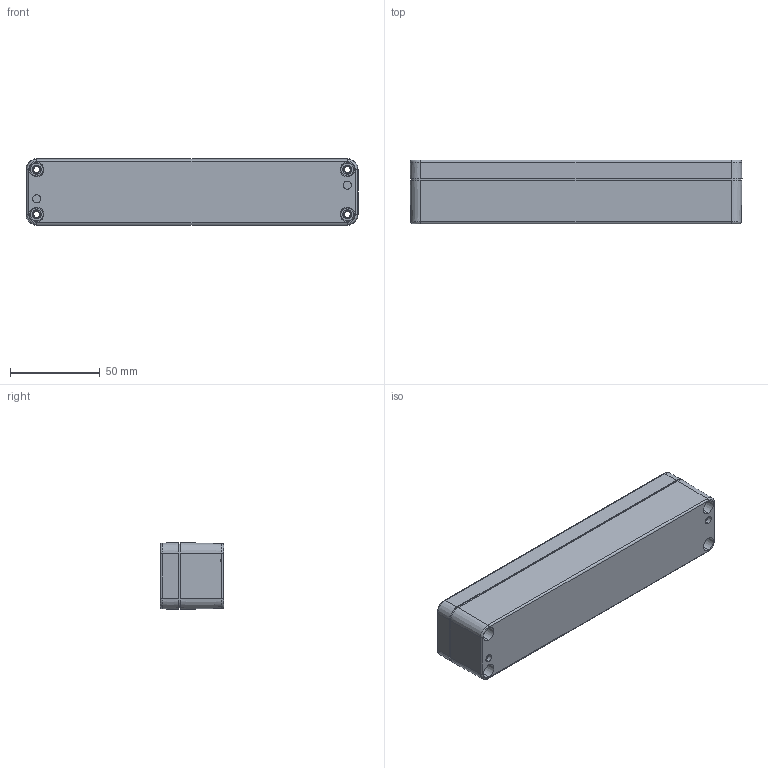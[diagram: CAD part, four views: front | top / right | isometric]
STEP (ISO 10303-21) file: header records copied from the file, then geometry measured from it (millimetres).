
FILE_DESCRIPTION (( 'STEP AP203' ), '1' );
FILE_NAME ('PE208.STEP', '2019-12-26T05:55:08', ( '' ), ( '' ), 'SwSTEP 2.0', 'SolidWorks 2020', '' );
FILE_SCHEMA (( 'CONFIG_CONTROL_DESIGN' ));
Length unit declared in the file: millimetre
Products named in the file (4): PE208
Assembly tree (3 placements, depth 2):
  PE208
    PE208
    PE208
    PE208
Bounding box: 184.9 x 35.3 x 37.07 mm (x, y, z)
Volume: 83547.1 mm3; surface area: 74170.7 mm2
Topology: 7 solids, 7 shells, 888 faces, 2320 edges, 1492 vertices
Faces by surface type: plane 258, cylinder 252, bspline 232, cone 138, torus 8
Entity records: 30458 total; most frequent: CARTESIAN_POINT 9502, ORIENTED_EDGE 4640, DIRECTION 3904, EDGE_CURVE 2320, AXIS2_PLACEMENT_3D 1522, VERTEX_POINT 1492, EDGE_LOOP 970, FACE_OUTER_BOUND 888
